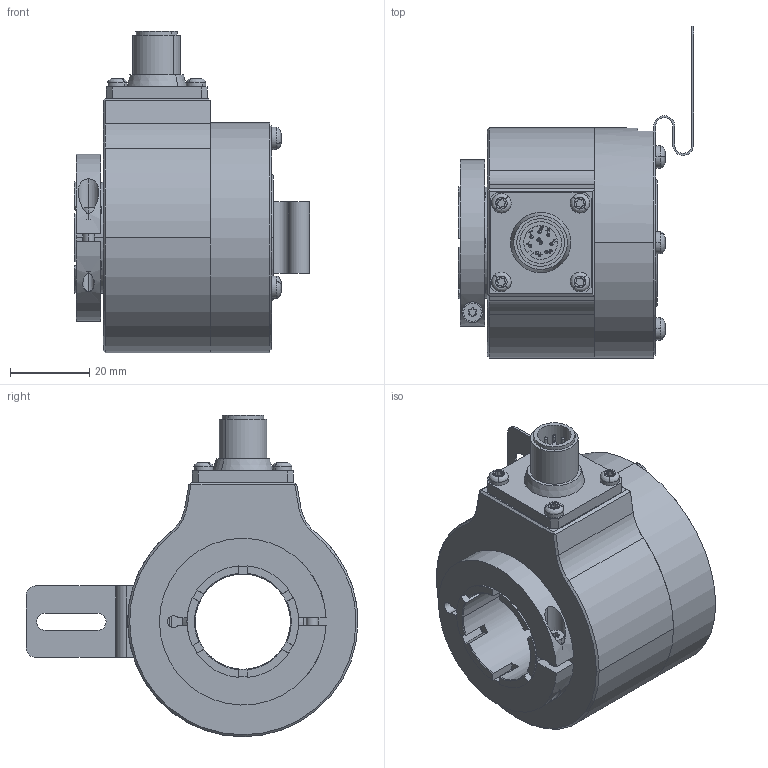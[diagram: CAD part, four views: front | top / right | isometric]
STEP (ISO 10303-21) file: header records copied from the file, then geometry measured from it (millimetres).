
FILE_DESCRIPTION (( 'STEP AP203' ), '1' );
FILE_NAME ('K58I.OXX.XXXXX.XC1557A.XXRC2.step', '2025-12-03T07:21:05', ( '' ), ( '' ), 'SwSTEP 2.0', 'SolidWorks 2021', '' );
FILE_SCHEMA (( 'CONFIG_CONTROL_DESIGN' ));
Length unit declared in the file: millimetre
Products named in the file (1): K58I.OXX.XXXXX.XC1557A.XXRC2
Bounding box: 59.2 x 83.61 x 81 mm (x, y, z)
Volume: 107907.6 mm3; surface area: 43454.5 mm2
Topology: 7 solids, 7 shells, 586 faces, 1530 edges, 977 vertices
Faces by surface type: cylinder 260, plane 172, bspline 76, cone 60, sphere 16, torus 2
Entity records: 22931 total; most frequent: CARTESIAN_POINT 8871, ORIENTED_EDGE 2972, DIRECTION 2822, EDGE_CURVE 1486, AXIS2_PLACEMENT_3D 1060, VERTEX_POINT 961, VECTOR 702, LINE 702
